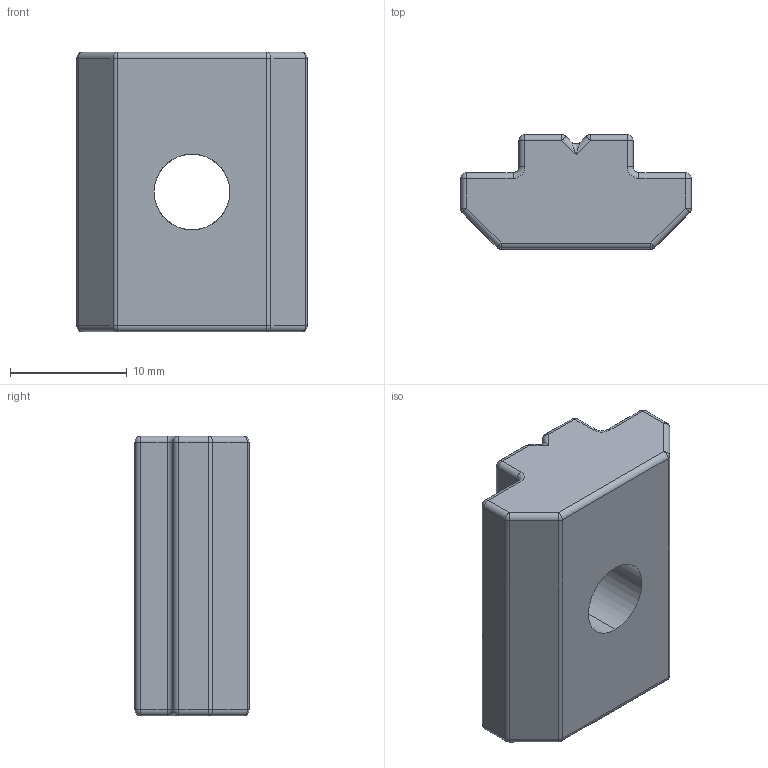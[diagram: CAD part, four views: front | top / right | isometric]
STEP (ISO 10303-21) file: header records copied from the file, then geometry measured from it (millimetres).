
FILE_DESCRIPTION (( 'STEP AP203' ), '1' );
FILE_NAME ('5074.STEP', '2016-04-22T17:33:19', ( '' ), ( '' ), 'SwSTEP 2.0', 'SolidWorks 2014', '' );
FILE_SCHEMA (( 'CONFIG_CONTROL_DESIGN' ));
Length unit declared in the file: millimetre
Products named in the file (1): 5074
Bounding box: 19.8 x 9.8 x 24 mm (x, y, z)
Volume: 3265.4 mm3; surface area: 1713.3 mm2
Topology: 1 solids, 1 shells, 87 faces, 202 edges, 98 vertices
Faces by surface type: cylinder 44, sphere 20, plane 17, torus 4, bspline 2
Entity records: 2407 total; most frequent: CARTESIAN_POINT 476, DIRECTION 422, ORIENTED_EDGE 368, EDGE_CURVE 184, AXIS2_PLACEMENT_3D 168, VERTEX_POINT 98, EDGE_LOOP 88, ADVANCED_FACE 87
